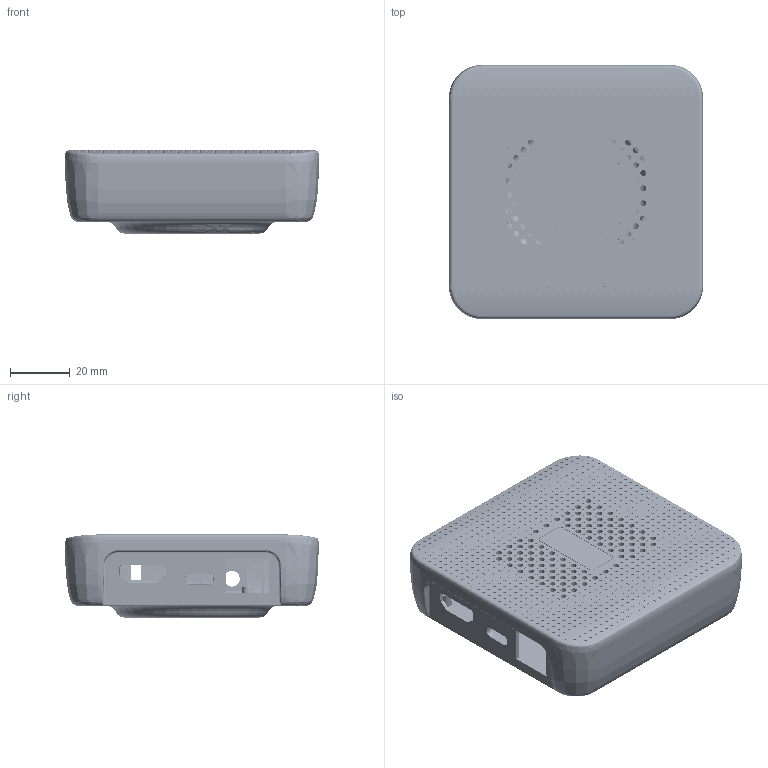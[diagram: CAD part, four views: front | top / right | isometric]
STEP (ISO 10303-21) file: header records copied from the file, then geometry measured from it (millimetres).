
FILE_DESCRIPTION(/* description */ ('','CAx-IF Rec.Pracs.---Representation and Presentation of Product Manufacturing Information (PMI)---4.0---2014-10-13'),/* implementation_level */ '2;1');
FILE_NAME(/* name */ 'BirdDog_PLAY.step',/* time_stamp */ '2025-02-14T14:01:19+11:00',/* author */ (''),/* organization */ (''),/* preprocessor_version */ 'ST-DEVELOPER v20',/* originating_system */ 'Autodesk Translation Framework v13.20.0.188',/* authorisation */ '');
FILE_SCHEMA (('AP242_MANAGED_MODEL_BASED_3D_ENGINEERING_MIM_LF { 1 0 10303 442 1 1 4 }'));
Products named in the file (1): lB0184C67lnfo
Bounding box: 85.1 x 85.09 x 27.82 mm (x, y, z)
Volume: 35500.9 mm3; surface area: 44503.9 mm2
Topology: 2 solids, 2 shells, 2417 faces, 4593 edges, 3093 vertices
Faces by surface type: cylinder 1187, plane 1150, bspline 69, cone 6, torus 4, sphere 1
Full cylindrical faces by diameter (mm): 0.995 x1, 1 x882, 1.7 x4, 2 x102, 4.08 x1, 5.274 x1, 6.069 x1
Entity records: 83399 total; most frequent: CARTESIAN_POINT 33372, DIRECTION 10373, ORIENTED_EDGE 9184, EDGE_CURVE 4592, AXIS2_PLACEMENT_3D 4164, EDGE_LOOP 3573, VERTEX_POINT 3093, FACE_OUTER_BOUND 2417
